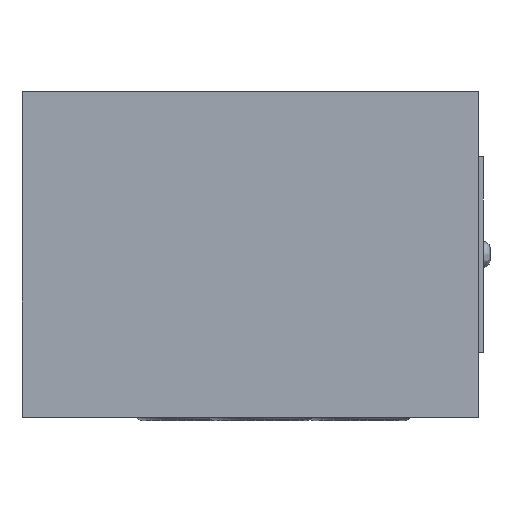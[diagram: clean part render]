
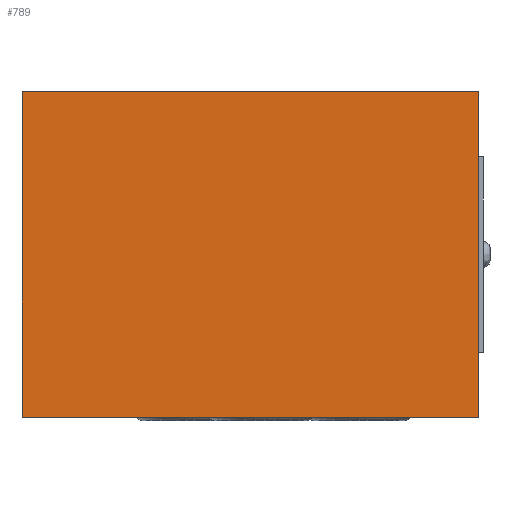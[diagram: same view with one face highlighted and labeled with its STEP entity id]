
A CAD part, left-side view. The second image highlights one B-rep face of the part: STEP entity #789.
In plain terms, the highlighted planar face has unit normal (-1, 0, 0).
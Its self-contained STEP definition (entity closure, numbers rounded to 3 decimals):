
#38=LINE('',#1593,#74);
#41=LINE('',#1599,#77);
#42=LINE('',#1601,#78);
#43=LINE('',#1603,#79);
#74=VECTOR('',#1240,1.);
#77=VECTOR('',#1245,1.);
#78=VECTOR('',#1246,1.);
#79=VECTOR('',#1247,1.);
#110=FACE_OUTER_BOUND('',#197,.T.);
#131=PLANE('',#1095);
#197=EDGE_LOOP('',(#336,#337,#338,#339));
#336=ORIENTED_EDGE('',*,*,#524,.T.);
#337=ORIENTED_EDGE('',*,*,#525,.F.);
#338=ORIENTED_EDGE('',*,*,#526,.F.);
#339=ORIENTED_EDGE('',*,*,#521,.T.);
#521=EDGE_CURVE('',#1002,#1001,#38,.T.);
#524=EDGE_CURVE('',#1001,#1004,#41,.T.);
#525=EDGE_CURVE('',#1005,#1004,#42,.T.);
#526=EDGE_CURVE('',#1002,#1005,#43,.T.);
#789=ADVANCED_FACE('',(#110),#131,.F.);
#1001=VERTEX_POINT('',#1592);
#1002=VERTEX_POINT('',#1594);
#1004=VERTEX_POINT('',#1600);
#1005=VERTEX_POINT('',#1602);
#1095=AXIS2_PLACEMENT_3D('',#1604,#1248,#1249);
#1240=DIRECTION('',(0.,0.,1.));
#1245=DIRECTION('',(0.,1.,0.));
#1246=DIRECTION('',(0.,0.,1.));
#1247=DIRECTION('',(0.,1.,0.));
#1248=DIRECTION('',(1.,0.,0.));
#1249=DIRECTION('',(0.,0.,1.));
#1592=CARTESIAN_POINT('',(55.381,7.542,0.));
#1593=CARTESIAN_POINT('',(55.381,7.542,-50.));
#1594=CARTESIAN_POINT('',(55.381,7.542,-50.));
#1599=CARTESIAN_POINT('',(55.381,42.542,0.));
#1600=CARTESIAN_POINT('',(55.381,77.542,0.));
#1601=CARTESIAN_POINT('',(55.381,77.542,-50.));
#1602=CARTESIAN_POINT('',(55.381,77.542,-50.));
#1603=CARTESIAN_POINT('',(55.381,7.542,-50.));
#1604=CARTESIAN_POINT('',(55.381,42.542,-50.));
